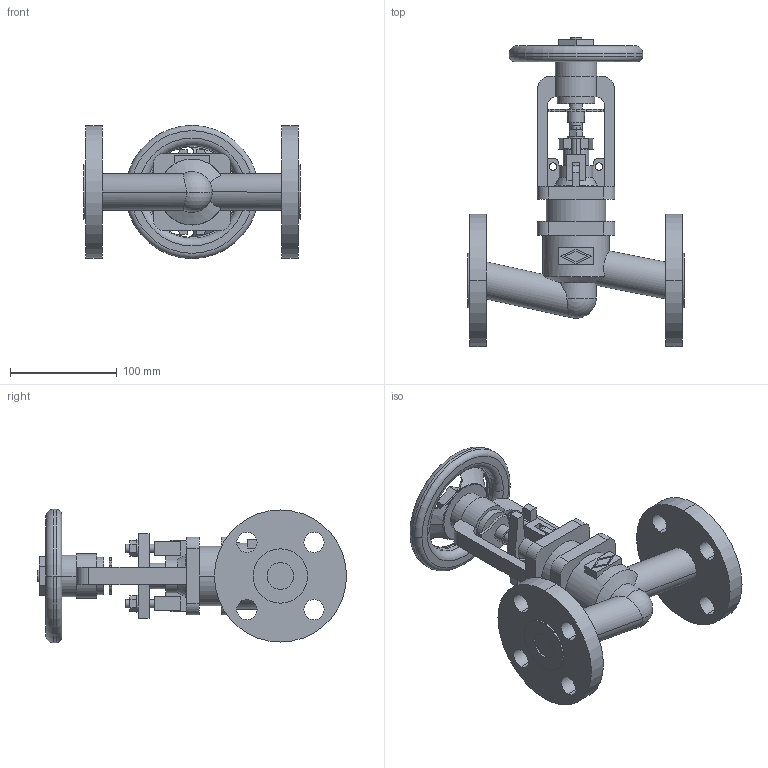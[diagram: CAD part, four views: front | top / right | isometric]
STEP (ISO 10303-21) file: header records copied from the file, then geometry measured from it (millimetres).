
FILE_DESCRIPTION(('OneSpaceDesigner STEP Export'),'2;1');
FILE_NAME('c000004195.stp','2010-04-30T 8:37:03',(''),(''),'OneSpace Designer STEP processor for AP214 (Solid Model)','OneSpace Modeling 15.50B 03-Nov-2007 (C) CoCreate Software GmbH','');
FILE_SCHEMA(('AUTOMOTIVE_DESIGN { 1 0 10303 214 1 1 1 1 }'));
Length unit declared in the file: millimetre
Products named in the file (1): 1
Bounding box: 203 x 290 x 125 mm (x, y, z)
Volume: 1072505.1 mm3; surface area: 179342.7 mm2
Topology: 1 solids, 1 shells, 283 faces, 756 edges, 497 vertices
Faces by surface type: plane 140, cylinder 115, torus 14, cone 12, sphere 2
Entity records: 11160 total; most frequent: CARTESIAN_POINT 2142, ORIENTED_EDGE 1508, DIRECTION 1263, EDGE_CURVE 754, VERTEX_POINT 497, AXIS2_PLACEMENT_3D 423, VECTOR 417, LINE 417
